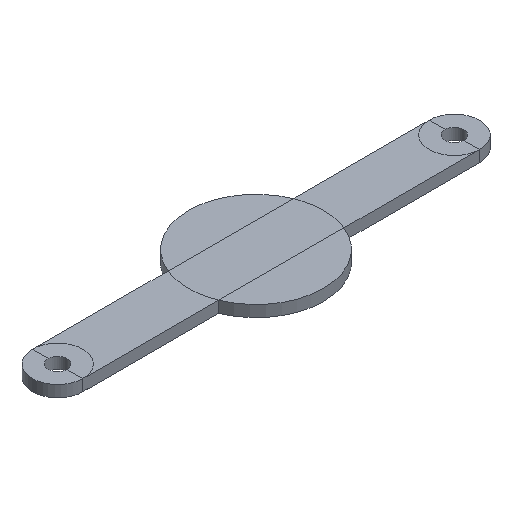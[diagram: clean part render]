
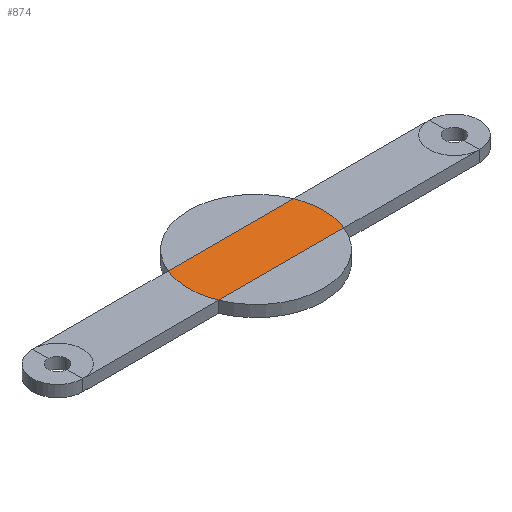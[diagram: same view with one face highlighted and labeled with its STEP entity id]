
A CAD part, isometric view. The second image highlights one B-rep face of the part: STEP entity #874.
In plain terms, the highlighted planar face has unit normal (0, 0, 1).
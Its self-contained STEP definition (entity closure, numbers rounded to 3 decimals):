
#85 = VERTEX_POINT('',#86);
#86 = CARTESIAN_POINT('',(-7.416,40.5,5.15));
#100 = PLANE('',#101);
#101 = AXIS2_PLACEMENT_3D('',#102,#103,#104);
#102 = CARTESIAN_POINT('',(0.,43.5,5.15));
#103 = DIRECTION('',(0.,0.,1.));
#104 = DIRECTION('',(1.,0.,-0.));
#252 = VERTEX_POINT('',#253);
#253 = CARTESIAN_POINT('',(7.416,40.5,5.15));
#322 = PLANE('',#323);
#323 = AXIS2_PLACEMENT_3D('',#324,#325,#326);
#324 = CARTESIAN_POINT('',(0.,43.5,5.15));
#325 = DIRECTION('',(0.,0.,1.));
#326 = DIRECTION('',(1.,0.,-0.));
#338 = VERTEX_POINT('',#339);
#339 = CARTESIAN_POINT('',(-7.416,46.5,5.15));
#414 = EDGE_CURVE('',#338,#85,#415,.T.);
#415 = SURFACE_CURVE('',#416,(#421,#428),.PCURVE_S1.);
#416 = CIRCLE('',#417,8.);
#417 = AXIS2_PLACEMENT_3D('',#418,#419,#420);
#418 = CARTESIAN_POINT('',(0.,43.5,5.15));
#419 = DIRECTION('',(0.,0.,1.));
#420 = DIRECTION('',(1.,0.,0.));
#421 = PCURVE('',#100,#422);
#422 = DEFINITIONAL_REPRESENTATION('',(#423),#427);
#423 = CIRCLE('',#424,8.);
#424 = AXIS2_PLACEMENT_2D('',#425,#426);
#425 = CARTESIAN_POINT('',(0.,0.));
#426 = DIRECTION('',(1.,0.));
#427 = ( GEOMETRIC_REPRESENTATION_CONTEXT(2) 
PARAMETRIC_REPRESENTATION_CONTEXT() REPRESENTATION_CONTEXT('2D SPACE',''
  ) );
#428 = PCURVE('',#429,#434);
#429 = PLANE('',#430);
#430 = AXIS2_PLACEMENT_3D('',#431,#432,#433);
#431 = CARTESIAN_POINT('',(0.,43.5,5.15));
#432 = DIRECTION('',(0.,0.,1.));
#433 = DIRECTION('',(1.,0.,-0.));
#434 = DEFINITIONAL_REPRESENTATION('',(#435),#439);
#435 = CIRCLE('',#436,8.);
#436 = AXIS2_PLACEMENT_2D('',#437,#438);
#437 = CARTESIAN_POINT('',(0.,0.));
#438 = DIRECTION('',(1.,0.));
#439 = ( GEOMETRIC_REPRESENTATION_CONTEXT(2) 
PARAMETRIC_REPRESENTATION_CONTEXT() REPRESENTATION_CONTEXT('2D SPACE',''
  ) );
#807 = PLANE('',#808);
#808 = AXIS2_PLACEMENT_3D('',#809,#810,#811);
#809 = CARTESIAN_POINT('',(0.,43.5,5.15));
#810 = DIRECTION('',(0.,0.,1.));
#811 = DIRECTION('',(1.,0.,-0.));
#849 = EDGE_CURVE('',#85,#252,#850,.T.);
#850 = SURFACE_CURVE('',#851,(#855,#862),.PCURVE_S1.);
#851 = LINE('',#852,#853);
#852 = CARTESIAN_POINT('',(-23.5,40.5,5.15));
#853 = VECTOR('',#854,1.);
#854 = DIRECTION('',(1.,0.,0.));
#855 = PCURVE('',#322,#856);
#856 = DEFINITIONAL_REPRESENTATION('',(#857),#861);
#857 = LINE('',#858,#859);
#858 = CARTESIAN_POINT('',(-23.5,-3.));
#859 = VECTOR('',#860,1.);
#860 = DIRECTION('',(1.,0.));
#861 = ( GEOMETRIC_REPRESENTATION_CONTEXT(2) 
PARAMETRIC_REPRESENTATION_CONTEXT() REPRESENTATION_CONTEXT('2D SPACE',''
  ) );
#862 = PCURVE('',#429,#863);
#863 = DEFINITIONAL_REPRESENTATION('',(#864),#868);
#864 = LINE('',#865,#866);
#865 = CARTESIAN_POINT('',(-23.5,-3.));
#866 = VECTOR('',#867,1.);
#867 = DIRECTION('',(1.,0.));
#868 = ( GEOMETRIC_REPRESENTATION_CONTEXT(2) 
PARAMETRIC_REPRESENTATION_CONTEXT() REPRESENTATION_CONTEXT('2D SPACE',''
  ) );
#874 = ADVANCED_FACE('',(#875),#429,.T.);
#875 = FACE_BOUND('',#876,.T.);
#876 = EDGE_LOOP('',(#877,#878,#879,#903,#927));
#877 = ORIENTED_EDGE('',*,*,#414,.T.);
#878 = ORIENTED_EDGE('',*,*,#849,.T.);
#879 = ORIENTED_EDGE('',*,*,#880,.T.);
#880 = EDGE_CURVE('',#252,#881,#883,.T.);
#881 = VERTEX_POINT('',#882);
#882 = CARTESIAN_POINT('',(8.,43.5,5.15));
#883 = SURFACE_CURVE('',#884,(#889,#896),.PCURVE_S1.);
#884 = CIRCLE('',#885,8.);
#885 = AXIS2_PLACEMENT_3D('',#886,#887,#888);
#886 = CARTESIAN_POINT('',(0.,43.5,5.15));
#887 = DIRECTION('',(0.,0.,1.));
#888 = DIRECTION('',(1.,0.,0.));
#889 = PCURVE('',#429,#890);
#890 = DEFINITIONAL_REPRESENTATION('',(#891),#895);
#891 = CIRCLE('',#892,8.);
#892 = AXIS2_PLACEMENT_2D('',#893,#894);
#893 = CARTESIAN_POINT('',(0.,0.));
#894 = DIRECTION('',(1.,0.));
#895 = ( GEOMETRIC_REPRESENTATION_CONTEXT(2) 
PARAMETRIC_REPRESENTATION_CONTEXT() REPRESENTATION_CONTEXT('2D SPACE',''
  ) );
#896 = PCURVE('',#807,#897);
#897 = DEFINITIONAL_REPRESENTATION('',(#898),#902);
#898 = CIRCLE('',#899,8.);
#899 = AXIS2_PLACEMENT_2D('',#900,#901);
#900 = CARTESIAN_POINT('',(0.,0.));
#901 = DIRECTION('',(1.,0.));
#902 = ( GEOMETRIC_REPRESENTATION_CONTEXT(2) 
PARAMETRIC_REPRESENTATION_CONTEXT() REPRESENTATION_CONTEXT('2D SPACE',''
  ) );
#903 = ORIENTED_EDGE('',*,*,#904,.T.);
#904 = EDGE_CURVE('',#881,#905,#907,.T.);
#905 = VERTEX_POINT('',#906);
#906 = CARTESIAN_POINT('',(7.416,46.5,5.15));
#907 = SURFACE_CURVE('',#908,(#913,#920),.PCURVE_S1.);
#908 = CIRCLE('',#909,8.);
#909 = AXIS2_PLACEMENT_3D('',#910,#911,#912);
#910 = CARTESIAN_POINT('',(0.,43.5,5.15));
#911 = DIRECTION('',(0.,0.,1.));
#912 = DIRECTION('',(1.,0.,0.));
#913 = PCURVE('',#429,#914);
#914 = DEFINITIONAL_REPRESENTATION('',(#915),#919);
#915 = CIRCLE('',#916,8.);
#916 = AXIS2_PLACEMENT_2D('',#917,#918);
#917 = CARTESIAN_POINT('',(0.,0.));
#918 = DIRECTION('',(1.,0.));
#919 = ( GEOMETRIC_REPRESENTATION_CONTEXT(2) 
PARAMETRIC_REPRESENTATION_CONTEXT() REPRESENTATION_CONTEXT('2D SPACE',''
  ) );
#920 = PCURVE('',#807,#921);
#921 = DEFINITIONAL_REPRESENTATION('',(#922),#926);
#922 = CIRCLE('',#923,8.);
#923 = AXIS2_PLACEMENT_2D('',#924,#925);
#924 = CARTESIAN_POINT('',(0.,0.));
#925 = DIRECTION('',(1.,0.));
#926 = ( GEOMETRIC_REPRESENTATION_CONTEXT(2) 
PARAMETRIC_REPRESENTATION_CONTEXT() REPRESENTATION_CONTEXT('2D SPACE',''
  ) );
#927 = ORIENTED_EDGE('',*,*,#928,.T.);
#928 = EDGE_CURVE('',#905,#338,#929,.T.);
#929 = SURFACE_CURVE('',#930,(#934,#941),.PCURVE_S1.);
#930 = LINE('',#931,#932);
#931 = CARTESIAN_POINT('',(23.5,46.5,5.15));
#932 = VECTOR('',#933,1.);
#933 = DIRECTION('',(-1.,0.,0.));
#934 = PCURVE('',#429,#935);
#935 = DEFINITIONAL_REPRESENTATION('',(#936),#940);
#936 = LINE('',#937,#938);
#937 = CARTESIAN_POINT('',(23.5,3.));
#938 = VECTOR('',#939,1.);
#939 = DIRECTION('',(-1.,0.));
#940 = ( GEOMETRIC_REPRESENTATION_CONTEXT(2) 
PARAMETRIC_REPRESENTATION_CONTEXT() REPRESENTATION_CONTEXT('2D SPACE',''
  ) );
#941 = PCURVE('',#942,#947);
#942 = PLANE('',#943);
#943 = AXIS2_PLACEMENT_3D('',#944,#945,#946);
#944 = CARTESIAN_POINT('',(0.,43.5,5.15));
#945 = DIRECTION('',(0.,0.,1.));
#946 = DIRECTION('',(1.,0.,-0.));
#947 = DEFINITIONAL_REPRESENTATION('',(#948),#952);
#948 = LINE('',#949,#950);
#949 = CARTESIAN_POINT('',(23.5,3.));
#950 = VECTOR('',#951,1.);
#951 = DIRECTION('',(-1.,0.));
#952 = ( GEOMETRIC_REPRESENTATION_CONTEXT(2) 
PARAMETRIC_REPRESENTATION_CONTEXT() REPRESENTATION_CONTEXT('2D SPACE',''
  ) );
